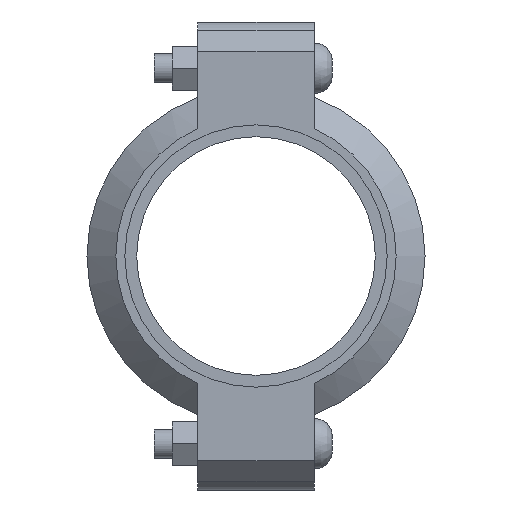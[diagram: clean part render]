
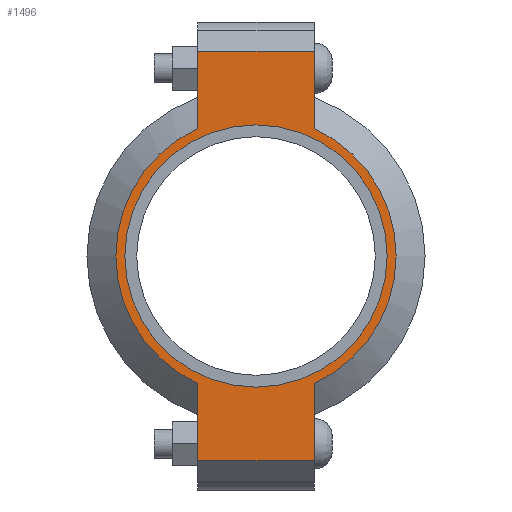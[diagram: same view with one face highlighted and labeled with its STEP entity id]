
A CAD part, left-side view. The second image highlights one B-rep face of the part: STEP entity #1496.
In plain terms, the highlighted planar face has unit normal (-1, 0, 0) as drawn and (0, 0, 1) by its records, which use the part's own axes.
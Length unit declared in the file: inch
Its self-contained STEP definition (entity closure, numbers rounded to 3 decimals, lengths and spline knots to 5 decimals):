
#176=LINE('',#2577,#267);
#184=LINE('',#2613,#275);
#191=LINE('',#2634,#282);
#200=LINE('',#2666,#291);
#201=LINE('',#2670,#292);
#202=LINE('',#2672,#293);
#267=VECTOR('',#2079,0.3937);
#275=VECTOR('',#2095,0.3937);
#282=VECTOR('',#2114,0.3937);
#291=VECTOR('',#2139,0.3937);
#292=VECTOR('',#2144,0.3937);
#293=VECTOR('',#2145,0.3937);
#345=FACE_BOUND('',#505,.T.);
#409=FACE_OUTER_BOUND('',#504,.T.);
#504=EDGE_LOOP('',(#1231,#1232,#1233,#1234,#1235,#1236,#1237,#1238));
#505=EDGE_LOOP('',(#1239));
#602=CIRCLE('',#1739,2.405);
#603=CIRCLE('',#1740,2.405);
#604=CIRCLE('',#1741,2.25);
#707=VERTEX_POINT('',#2574);
#708=VERTEX_POINT('',#2576);
#719=VERTEX_POINT('',#2608);
#720=VERTEX_POINT('',#2612);
#727=VERTEX_POINT('',#2631);
#728=VERTEX_POINT('',#2633);
#738=VERTEX_POINT('',#2669);
#739=VERTEX_POINT('',#2671);
#740=VERTEX_POINT('',#2674);
#871=EDGE_CURVE('',#708,#707,#176,.T.);
#885=EDGE_CURVE('',#720,#719,#184,.T.);
#895=EDGE_CURVE('',#728,#727,#191,.T.);
#910=EDGE_CURVE('',#720,#707,#200,.T.);
#911=EDGE_CURVE('',#719,#728,#602,.T.);
#912=EDGE_CURVE('',#738,#727,#201,.T.);
#913=EDGE_CURVE('',#738,#739,#202,.T.);
#914=EDGE_CURVE('',#739,#708,#603,.T.);
#915=EDGE_CURVE('',#740,#740,#604,.T.);
#1231=ORIENTED_EDGE('',*,*,#910,.F.);
#1232=ORIENTED_EDGE('',*,*,#885,.T.);
#1233=ORIENTED_EDGE('',*,*,#911,.T.);
#1234=ORIENTED_EDGE('',*,*,#895,.T.);
#1235=ORIENTED_EDGE('',*,*,#912,.F.);
#1236=ORIENTED_EDGE('',*,*,#913,.T.);
#1237=ORIENTED_EDGE('',*,*,#914,.T.);
#1238=ORIENTED_EDGE('',*,*,#871,.T.);
#1239=ORIENTED_EDGE('',*,*,#915,.T.);
#1350=PLANE('',#1738);
#1496=ADVANCED_FACE('',(#409,#345),#1350,.T.);
#1738=AXIS2_PLACEMENT_3D('',#2667,#2140,#2141);
#1739=AXIS2_PLACEMENT_3D('',#2668,#2142,#2143);
#1740=AXIS2_PLACEMENT_3D('',#2673,#2146,#2147);
#1741=AXIS2_PLACEMENT_3D('',#2675,#2148,#2149);
#2079=DIRECTION('',(-1.,0.,0.));
#2095=DIRECTION('',(1.,0.,0.));
#2114=DIRECTION('',(1.,0.,0.));
#2139=DIRECTION('',(0.,1.,0.));
#2140=DIRECTION('center_axis',(0.,0.,1.));
#2141=DIRECTION('ref_axis',(1.,0.,0.));
#2142=DIRECTION('center_axis',(0.,0.,1.));
#2143=DIRECTION('ref_axis',(-1.,0.,0.));
#2144=DIRECTION('',(0.,-1.,0.));
#2145=DIRECTION('',(-1.,0.,0.));
#2146=DIRECTION('center_axis',(0.,0.,1.));
#2147=DIRECTION('ref_axis',(-1.,0.,0.));
#2148=DIRECTION('center_axis',(0.,0.,-1.));
#2149=DIRECTION('ref_axis',(-1.,0.,0.));
#2574=CARTESIAN_POINT('',(-3.515,1.,1.065));
#2576=CARTESIAN_POINT('',(-2.18724,1.,1.065));
#2577=CARTESIAN_POINT('',(-4.015,1.,1.065));
#2608=CARTESIAN_POINT('',(-2.18724,-1.,1.065));
#2612=CARTESIAN_POINT('',(-3.515,-1.,1.065));
#2613=CARTESIAN_POINT('',(4.015,-1.,1.065));
#2631=CARTESIAN_POINT('',(3.515,-1.,1.065));
#2633=CARTESIAN_POINT('',(2.18724,-1.,1.065));
#2634=CARTESIAN_POINT('',(4.015,-1.,1.065));
#2666=CARTESIAN_POINT('',(-3.515,0.5,1.065));
#2667=CARTESIAN_POINT('Origin',(0.,0.,1.065));
#2668=CARTESIAN_POINT('Origin',(0.,0.,1.065));
#2669=CARTESIAN_POINT('',(3.515,1.,1.065));
#2670=CARTESIAN_POINT('',(3.515,-0.5,1.065));
#2671=CARTESIAN_POINT('',(2.18724,1.,1.065));
#2672=CARTESIAN_POINT('',(-4.015,1.,1.065));
#2673=CARTESIAN_POINT('Origin',(0.,0.,1.065));
#2674=CARTESIAN_POINT('',(2.25,0.,1.065));
#2675=CARTESIAN_POINT('Origin',(0.,0.,1.065));
